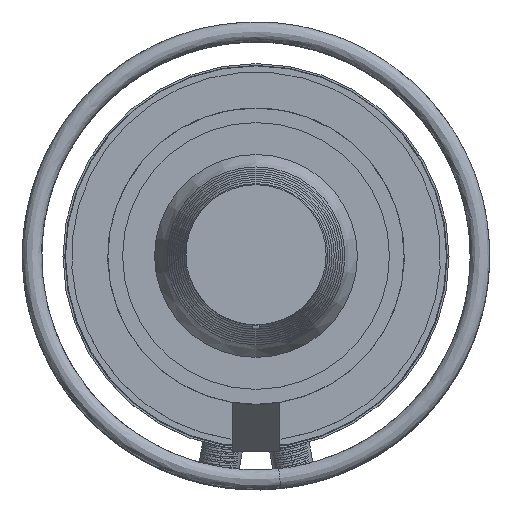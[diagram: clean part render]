
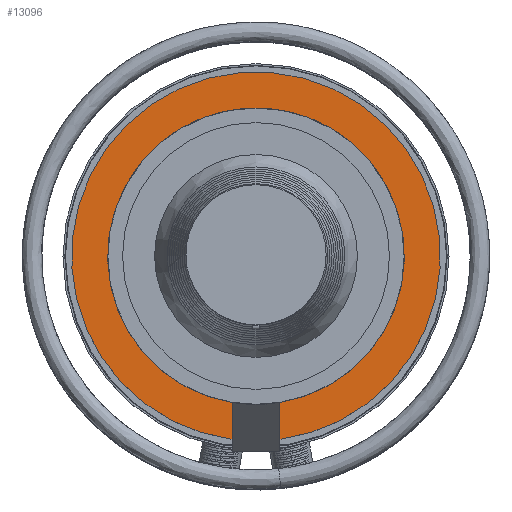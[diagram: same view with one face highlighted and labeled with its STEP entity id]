
A CAD part, top view. The second image highlights one B-rep face of the part: STEP entity #13096.
In plain terms, the highlighted planar face has unit normal (0, 0, 1).
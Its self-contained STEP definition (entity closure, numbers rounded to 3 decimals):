
#267=LINE('',#21257,#994);
#268=LINE('',#21260,#995);
#994=VECTOR('',#14564,10.);
#995=VECTOR('',#14567,10.);
#1726=PLANE('',#13878);
#1963=FACE_OUTER_BOUND('',#2716,.T.);
#2716=EDGE_LOOP('',(#8071,#8072,#8073,#8074));
#4498=CIRCLE('',#13879,91.5);
#4499=CIRCLE('',#13880,150.);
#4806=VERTEX_POINT('',#21253);
#4807=VERTEX_POINT('',#21254);
#4808=VERTEX_POINT('',#21256);
#4809=VERTEX_POINT('',#21258);
#6096=EDGE_CURVE('',#4806,#4807,#4498,.T.);
#6097=EDGE_CURVE('',#4807,#4808,#267,.T.);
#6098=EDGE_CURVE('',#4809,#4808,#4499,.T.);
#6099=EDGE_CURVE('',#4809,#4806,#268,.T.);
#8071=ORIENTED_EDGE('',*,*,#6096,.T.);
#8072=ORIENTED_EDGE('',*,*,#6097,.T.);
#8073=ORIENTED_EDGE('',*,*,#6098,.F.);
#8074=ORIENTED_EDGE('',*,*,#6099,.T.);
#13096=ADVANCED_FACE('',(#1963),#1726,.T.);
#13878=AXIS2_PLACEMENT_3D('',#21252,#14560,#14561);
#13879=AXIS2_PLACEMENT_3D('',#21255,#14562,#14563);
#13880=AXIS2_PLACEMENT_3D('',#21259,#14565,#14566);
#14560=DIRECTION('center_axis',(0.,0.,
1.));
#14561=DIRECTION('ref_axis',(-1.,0.,0.));
#14562=DIRECTION('center_axis',(0.,0.,
-1.));
#14563=DIRECTION('ref_axis',(0.,1.,0.));
#14564=DIRECTION('',(0.,-1.,0.));
#14565=DIRECTION('center_axis',(0.,0.,
-1.));
#14566=DIRECTION('ref_axis',(0.,1.,0.));
#14567=DIRECTION('',(0.,1.,0.));
#21252=CARTESIAN_POINT('Origin',(0.,123.25,168.219));
#21253=CARTESIAN_POINT('',(-19.5,-89.398,168.219));
#21254=CARTESIAN_POINT('',(19.5,-89.398,168.219));
#21255=CARTESIAN_POINT('Origin',(0.,0.,
168.219));
#21256=CARTESIAN_POINT('',(19.5,-148.727,168.219));
#21257=CARTESIAN_POINT('',(19.5,-14.209,168.219));
#21258=CARTESIAN_POINT('',(-19.5,-148.727,168.219));
#21259=CARTESIAN_POINT('Origin',(0.,0.,
168.219));
#21260=CARTESIAN_POINT('',(-19.5,-7.714,168.219));
